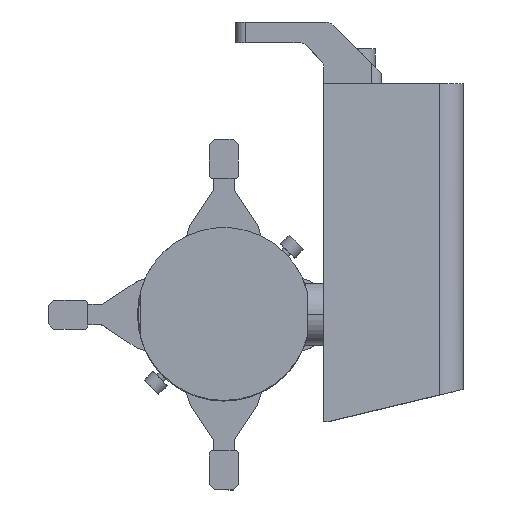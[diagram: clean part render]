
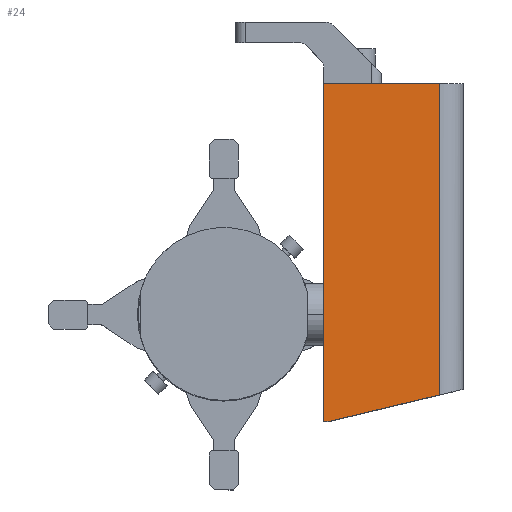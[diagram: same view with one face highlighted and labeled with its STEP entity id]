
A CAD part, top view. The second image highlights one B-rep face of the part: STEP entity #24.
In plain terms, the highlighted planar face has unit normal (0.037, 0, 0.999).
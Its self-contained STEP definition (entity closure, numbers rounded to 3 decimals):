
#24 = ADVANCED_FACE ( 'NONE', ( #2016 ), #7314, .F. ) ;
#47 = DIRECTION ( 'NONE',  ( -0.999, 0., 0.037 ) ) ;
#73 = AXIS2_PLACEMENT_3D ( 'NONE', #8636, #5207, #3205 ) ;
#89 = CARTESIAN_POINT ( 'NONE',  ( 65.542, 112., 35.871 ) ) ;
#629 = DIRECTION ( 'NONE',  ( -0.999, 0., 0.037 ) ) ;
#745 = LINE ( 'NONE', #1537, #1259 ) ;
#1259 = VECTOR ( 'NONE', #4246, 1000. ) ;
#1537 = CARTESIAN_POINT ( 'NONE',  ( 65.542, -101.8, 35.871 ) ) ;
#1727 = ORIENTED_EDGE ( 'NONE', *, *, #4420, .F. ) ;
#1780 = VECTOR ( 'NONE', #629, 1000. ) ;
#2016 = FACE_OUTER_BOUND ( 'NONE', #4993, .T. ) ;
#2040 = LINE ( 'NONE', #5627, #7115 ) ;
#2111 = VERTEX_POINT ( 'NONE', #4334 ) ;
#2305 = EDGE_CURVE ( 'NONE', #8545, #7016, #745, .T. ) ;
#2462 = ORIENTED_EDGE ( 'NONE', *, *, #5567, .F. ) ;
#2555 = ORIENTED_EDGE ( 'NONE', *, *, #8521, .T. ) ;
#2680 = CARTESIAN_POINT ( 'NONE',  ( 15.954, -51.008, 37.7 ) ) ;
#3205 = DIRECTION ( 'NONE',  ( -0.999, 0., 0.037 ) ) ;
#3366 = EDGE_CURVE ( 'NONE', #7016, #5197, #4469, .T. ) ;
#3478 = LINE ( 'NONE', #7587, #3810 ) ;
#3546 = CARTESIAN_POINT ( 'NONE',  ( 65.542, -39.161, 35.871 ) ) ;
#3810 = VECTOR ( 'NONE', #47, 1000. ) ;
#4246 = DIRECTION ( 'NONE',  ( 0., 1., 0. ) ) ;
#4329 = VECTOR ( 'NONE', #8168, 1000. ) ;
#4334 = CARTESIAN_POINT ( 'NONE',  ( 11.8, -52., 37.853 ) ) ;
#4420 = EDGE_CURVE ( 'NONE', #2111, #8193, #3478, .T. ) ;
#4469 = LINE ( 'NONE', #7490, #1780 ) ;
#4993 = EDGE_LOOP ( 'NONE', ( #2462, #8294, #7024, #2555, #1727 ) ) ;
#5197 = VERTEX_POINT ( 'NONE', #5630 ) ;
#5207 = DIRECTION ( 'NONE',  ( -0.037, 0., -0.999 ) ) ;
#5567 = EDGE_CURVE ( 'NONE', #8545, #2111, #5732, .T. ) ;
#5627 = CARTESIAN_POINT ( 'NONE',  ( 9.3, -52., 37.945 ) ) ;
#5630 = CARTESIAN_POINT ( 'NONE',  ( 9.3, 112., 37.945 ) ) ;
#5732 = LINE ( 'NONE', #2680, #4329 ) ;
#6965 = DIRECTION ( 'NONE',  ( 0., -1., 0. ) ) ;
#7016 = VERTEX_POINT ( 'NONE', #89 ) ;
#7024 = ORIENTED_EDGE ( 'NONE', *, *, #3366, .T. ) ;
#7115 = VECTOR ( 'NONE', #6965, 1000. ) ;
#7306 = CARTESIAN_POINT ( 'NONE',  ( 9.3, -52., 37.945 ) ) ;
#7314 = PLANE ( 'NONE',  #73 ) ;
#7490 = CARTESIAN_POINT ( 'NONE',  ( 9.3, 112., 37.945 ) ) ;
#7587 = CARTESIAN_POINT ( 'NONE',  ( 77.008, -52., 35.448 ) ) ;
#8168 = DIRECTION ( 'NONE',  ( -0.972, -0.232, 0.036 ) ) ;
#8193 = VERTEX_POINT ( 'NONE', #7306 ) ;
#8294 = ORIENTED_EDGE ( 'NONE', *, *, #2305, .T. ) ;
#8521 = EDGE_CURVE ( 'NONE', #5197, #8193, #2040, .T. ) ;
#8545 = VERTEX_POINT ( 'NONE', #3546 ) ;
#8636 = CARTESIAN_POINT ( 'NONE',  ( 9.3, -101.8, 37.945 ) ) ;
